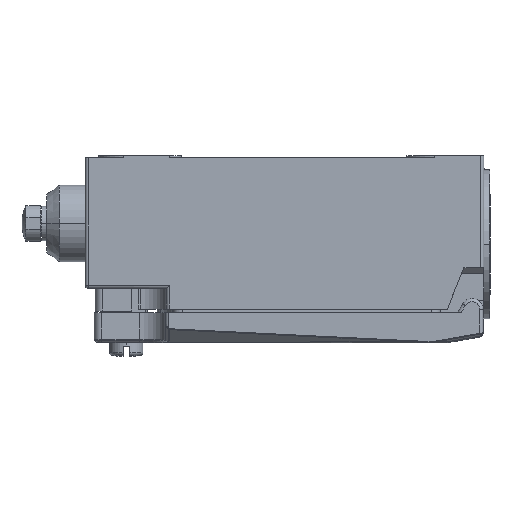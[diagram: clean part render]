
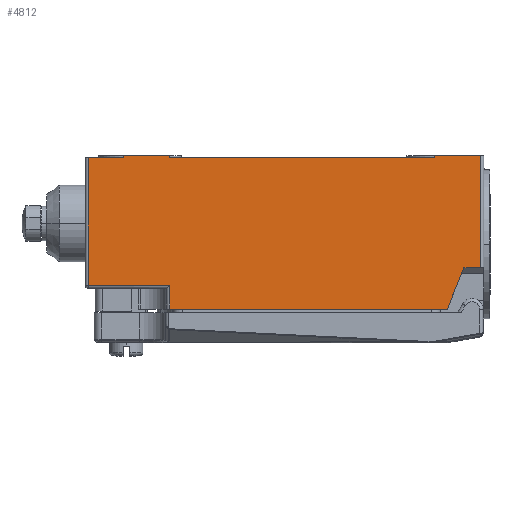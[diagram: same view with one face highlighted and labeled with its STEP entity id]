
A CAD part, left-side view. The second image highlights one B-rep face of the part: STEP entity #4812.
In plain terms, the highlighted planar face has unit normal (-1, 0, 0).
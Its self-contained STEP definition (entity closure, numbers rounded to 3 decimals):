
#939=B_SPLINE_CURVE_WITH_KNOTS('',3,(#29087,#29088,#29089,#29090),
 .UNSPECIFIED.,.F.,.F.,(4,4),(0.,1.),.UNSPECIFIED.);
#940=B_SPLINE_CURVE_WITH_KNOTS('',3,(#29207,#29208,#29209,#29210),
 .UNSPECIFIED.,.F.,.F.,(4,4),(0.,1.),.UNSPECIFIED.);
#941=B_SPLINE_CURVE_WITH_KNOTS('',3,(#29211,#29212,#29213,#29214),
 .UNSPECIFIED.,.F.,.F.,(4,4),(0.,1.),.UNSPECIFIED.);
#942=B_SPLINE_CURVE_WITH_KNOTS('',3,(#29216,#29217,#29218,#29219),
 .UNSPECIFIED.,.F.,.F.,(4,4),(0.,1.),.UNSPECIFIED.);
#943=B_SPLINE_CURVE_WITH_KNOTS('',3,(#29221,#29222,#29223,#29224),
 .UNSPECIFIED.,.F.,.F.,(4,4),(0.,1.),.UNSPECIFIED.);
#944=B_SPLINE_CURVE_WITH_KNOTS('',3,(#29232,#29233,#29234,#29235),
 .UNSPECIFIED.,.F.,.F.,(4,4),(0.,1.),.UNSPECIFIED.);
#945=B_SPLINE_CURVE_WITH_KNOTS('',3,(#29236,#29237,#29238,#29239),
 .UNSPECIFIED.,.F.,.F.,(4,4),(0.,1.),.UNSPECIFIED.);
#946=B_SPLINE_CURVE_WITH_KNOTS('',3,(#29240,#29241,#29242,#29243),
 .UNSPECIFIED.,.F.,.F.,(4,4),(0.,1.),.UNSPECIFIED.);
#1563=LINE('',#29071,#3263);
#1600=LINE('',#29190,#3300);
#1605=LINE('',#29204,#3305);
#1606=LINE('',#29226,#3306);
#1607=LINE('',#29228,#3307);
#1608=LINE('',#29230,#3308);
#3263=VECTOR('',#22217,1.);
#3300=VECTOR('',#22328,1.);
#3305=VECTOR('',#22339,1.);
#3306=VECTOR('',#22340,1.);
#3307=VECTOR('',#22341,1.);
#3308=VECTOR('',#22342,1.);
#4812=ADVANCED_FACE('',(#6417),#5834,.F.);
#5834=PLANE('',#19816);
#6417=FACE_OUTER_BOUND('',#7464,.T.);
#7464=EDGE_LOOP('',(#9414,#9415,#9416,#9417,#9418,#9419,#9420,#9421,#9422,
#9423,#9424,#9425,#9426,#9427));
#9414=ORIENTED_EDGE('',*,*,#16516,.F.);
#9415=ORIENTED_EDGE('',*,*,#16517,.F.);
#9416=ORIENTED_EDGE('',*,*,#16452,.F.);
#9417=ORIENTED_EDGE('',*,*,#16518,.T.);
#9418=ORIENTED_EDGE('',*,*,#16519,.T.);
#9419=ORIENTED_EDGE('',*,*,#16520,.T.);
#9420=ORIENTED_EDGE('',*,*,#16521,.T.);
#9421=ORIENTED_EDGE('',*,*,#16522,.F.);
#9422=ORIENTED_EDGE('',*,*,#16523,.F.);
#9423=ORIENTED_EDGE('',*,*,#16524,.T.);
#9424=ORIENTED_EDGE('',*,*,#16509,.F.);
#9425=ORIENTED_EDGE('',*,*,#16525,.T.);
#9426=ORIENTED_EDGE('',*,*,#16460,.F.);
#9427=ORIENTED_EDGE('',*,*,#16526,.T.);
#14473=VERTEX_POINT('',#29070);
#14474=VERTEX_POINT('',#29072);
#14481=VERTEX_POINT('',#29086);
#14482=VERTEX_POINT('',#29091);
#14513=VERTEX_POINT('',#29187);
#14514=VERTEX_POINT('',#29189);
#14521=VERTEX_POINT('',#29205);
#14522=VERTEX_POINT('',#29206);
#14523=VERTEX_POINT('',#29215);
#14524=VERTEX_POINT('',#29220);
#14525=VERTEX_POINT('',#29225);
#14526=VERTEX_POINT('',#29227);
#14527=VERTEX_POINT('',#29229);
#14528=VERTEX_POINT('',#29231);
#16452=EDGE_CURVE('',#14473,#14474,#1563,.T.);
#16460=EDGE_CURVE('',#14481,#14482,#939,.T.);
#16509=EDGE_CURVE('',#14514,#14513,#1600,.T.);
#16516=EDGE_CURVE('',#14521,#14522,#1605,.T.);
#16517=EDGE_CURVE('',#14474,#14521,#940,.T.);
#16518=EDGE_CURVE('',#14473,#14523,#941,.T.);
#16519=EDGE_CURVE('',#14523,#14524,#942,.T.);
#16520=EDGE_CURVE('',#14524,#14525,#943,.T.);
#16521=EDGE_CURVE('',#14525,#14526,#1606,.T.);
#16522=EDGE_CURVE('',#14527,#14526,#1607,.T.);
#16523=EDGE_CURVE('',#14528,#14527,#1608,.T.);
#16524=EDGE_CURVE('',#14528,#14513,#944,.T.);
#16525=EDGE_CURVE('',#14514,#14482,#945,.T.);
#16526=EDGE_CURVE('',#14481,#14522,#946,.T.);
#19816=AXIS2_PLACEMENT_3D('',#29244,#22343,#22344);
#22217=DIRECTION('',(0.,-1.,0.));
#22328=DIRECTION('',(0.,-1.,0.));
#22339=DIRECTION('',(0.,-1.,0.));
#22340=DIRECTION('',(0.,-1.,0.));
#22341=DIRECTION('',(0.,0.371,-0.928));
#22342=DIRECTION('',(0.,1.,0.));
#22343=DIRECTION('',(1.,0.,0.));
#22344=DIRECTION('',(0.,1.,0.));
#29070=CARTESIAN_POINT('',(160.488,12.728,24.587));
#29071=CARTESIAN_POINT('',(160.488,-50.973,24.587));
#29072=CARTESIAN_POINT('',(160.488,7.025,24.587));
#29086=CARTESIAN_POINT('',(160.488,-0.294,24.587));
#29087=CARTESIAN_POINT('',(160.488,-0.294,24.587));
#29088=CARTESIAN_POINT('',(160.488,-14.536,24.587));
#29089=CARTESIAN_POINT('',(160.488,-28.778,24.587));
#29090=CARTESIAN_POINT('',(160.488,-43.02,24.587));
#29091=CARTESIAN_POINT('',(160.488,-43.021,24.587));
#29187=CARTESIAN_POINT('',(160.488,-50.474,24.937));
#29189=CARTESIAN_POINT('',(160.488,-43.022,24.937));
#29190=CARTESIAN_POINT('',(160.488,-43.023,24.937));
#29204=CARTESIAN_POINT('',(160.488,7.028,24.937));
#29205=CARTESIAN_POINT('',(160.488,7.026,24.937));
#29206=CARTESIAN_POINT('',(160.488,-0.297,24.937));
#29207=CARTESIAN_POINT('',(160.488,7.025,24.587));
#29208=CARTESIAN_POINT('',(160.488,7.025,24.704));
#29209=CARTESIAN_POINT('',(160.488,7.026,24.82));
#29210=CARTESIAN_POINT('',(160.488,7.026,24.937));
#29211=CARTESIAN_POINT('',(160.488,12.728,24.587));
#29212=CARTESIAN_POINT('',(160.488,12.727,17.737));
#29213=CARTESIAN_POINT('',(160.488,12.727,10.887));
#29214=CARTESIAN_POINT('',(160.488,12.727,4.037));
#29215=CARTESIAN_POINT('',(160.488,12.727,4.037));
#29216=CARTESIAN_POINT('',(160.488,12.727,4.037));
#29217=CARTESIAN_POINT('',(160.488,8.36,4.037));
#29218=CARTESIAN_POINT('',(160.488,3.993,4.037));
#29219=CARTESIAN_POINT('',(160.488,-0.374,4.037));
#29220=CARTESIAN_POINT('',(160.488,-0.374,4.037));
#29221=CARTESIAN_POINT('',(160.488,-0.374,4.037));
#29222=CARTESIAN_POINT('',(160.488,-0.374,2.754));
#29223=CARTESIAN_POINT('',(160.488,-0.374,1.47));
#29224=CARTESIAN_POINT('',(160.488,-0.374,0.187));
#29225=CARTESIAN_POINT('',(160.488,-0.374,0.187));
#29226=CARTESIAN_POINT('',(160.488,7.028,0.187));
#29227=CARTESIAN_POINT('',(160.488,-45.093,0.187));
#29228=CARTESIAN_POINT('',(160.488,-46.439,3.55));
#29229=CARTESIAN_POINT('',(160.488,-47.773,6.887));
#29230=CARTESIAN_POINT('',(160.488,7.028,6.887));
#29231=CARTESIAN_POINT('',(160.488,-50.474,6.887));
#29232=CARTESIAN_POINT('',(160.488,-50.474,6.887));
#29233=CARTESIAN_POINT('',(160.488,-50.474,12.904));
#29234=CARTESIAN_POINT('',(160.488,-50.474,18.92));
#29235=CARTESIAN_POINT('',(160.488,-50.474,24.937));
#29236=CARTESIAN_POINT('',(160.488,-43.022,24.937));
#29237=CARTESIAN_POINT('',(160.488,-43.022,24.82));
#29238=CARTESIAN_POINT('',(160.488,-43.022,24.704));
#29239=CARTESIAN_POINT('',(160.488,-43.022,24.587));
#29240=CARTESIAN_POINT('',(160.488,-0.294,24.587));
#29241=CARTESIAN_POINT('',(160.488,-0.294,24.704));
#29242=CARTESIAN_POINT('',(160.488,-0.295,24.82));
#29243=CARTESIAN_POINT('',(160.488,-0.295,24.937));
#29244=CARTESIAN_POINT('',(160.488,7.028,24.937));
